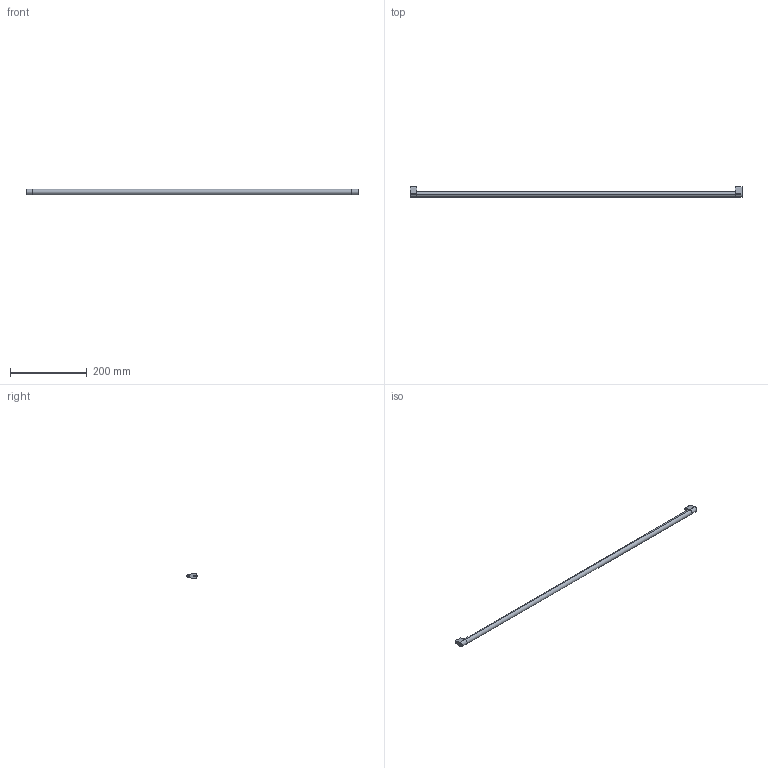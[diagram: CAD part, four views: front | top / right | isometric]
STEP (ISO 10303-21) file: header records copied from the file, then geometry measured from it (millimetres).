
FILE_DESCRIPTION (( 'STEP AP214' ), '1' );
FILE_NAME ('_Synchronisationseinheit Nova Pro KAB950_S16.step', '2010-07-08T13:58:34', ( 'grass' ), ( '' ), 'SwSTEP 2.0', 'SolidWorks 2010', '' );
FILE_SCHEMA (( 'AUTOMOTIVE_DESIGN' ));
Length unit declared in the file: millimetre
Products named in the file (1): _Synchronisationseinheit Nova Pro KAB950_S16
Bounding box: 865 x 26.5 x 14 mm (x, y, z)
Volume: 136843.2 mm3; surface area: 40891.7 mm2
Topology: 3 solids, 3 shells, 36 faces, 78 edges, 52 vertices
Faces by surface type: cylinder 18, plane 18
Entity records: 1050 total; most frequent: DIRECTION 188, CARTESIAN_POINT 167, ORIENTED_EDGE 156, EDGE_CURVE 78, AXIS2_PLACEMENT_3D 73, VERTEX_POINT 52, LINE 42, VECTOR 42
